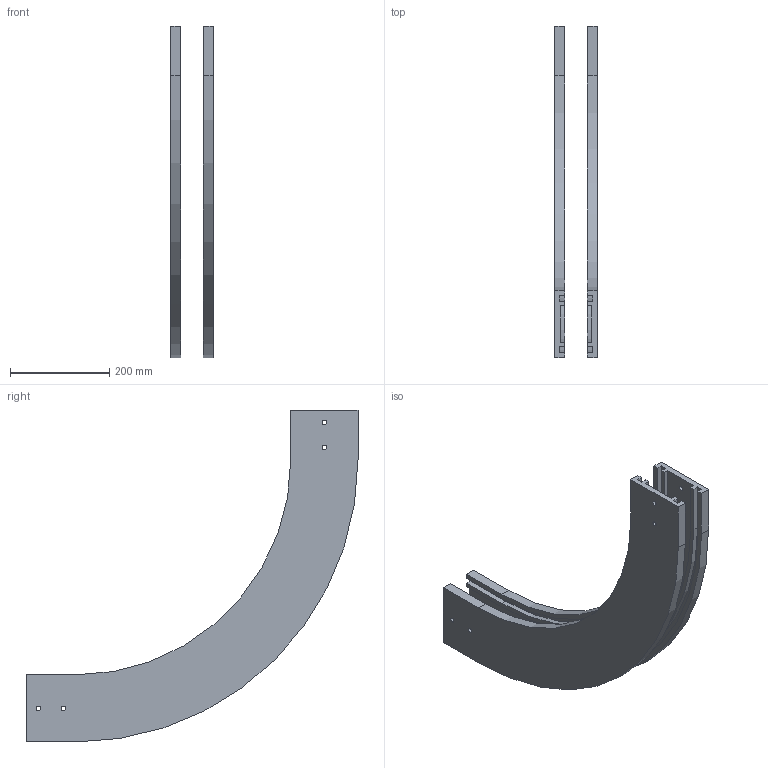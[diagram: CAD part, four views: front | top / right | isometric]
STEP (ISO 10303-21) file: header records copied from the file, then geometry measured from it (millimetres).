
FILE_DESCRIPTION (( 'STEP AP203' ), '1' );
FILE_NAME ('R2CV500-90.STEP', '2008-12-02T09:21:11', ( 'faber' ), ( '' ), 'SwSTEP 2.0', 'SolidWorks 2008', '' );
FILE_SCHEMA (( 'CONFIG_CONTROL_DESIGN' ));
Length unit declared in the file: millimetre
Products named in the file (1): R2CV500-90
Bounding box: 86 x 667.5 x 667.5 mm (x, y, z)
Volume: 3482711.2 mm3; surface area: 741686.5 mm2
Topology: 2 solids, 2 shells, 84 faces, 240 edges, 160 vertices
Faces by surface type: plane 52, cylinder 32
Entity records: 2855 total; most frequent: CARTESIAN_POINT 485, ORIENTED_EDGE 480, DIRECTION 474, EDGE_CURVE 240, VECTOR 176, LINE 176, VERTEX_POINT 160, AXIS2_PLACEMENT_3D 149
